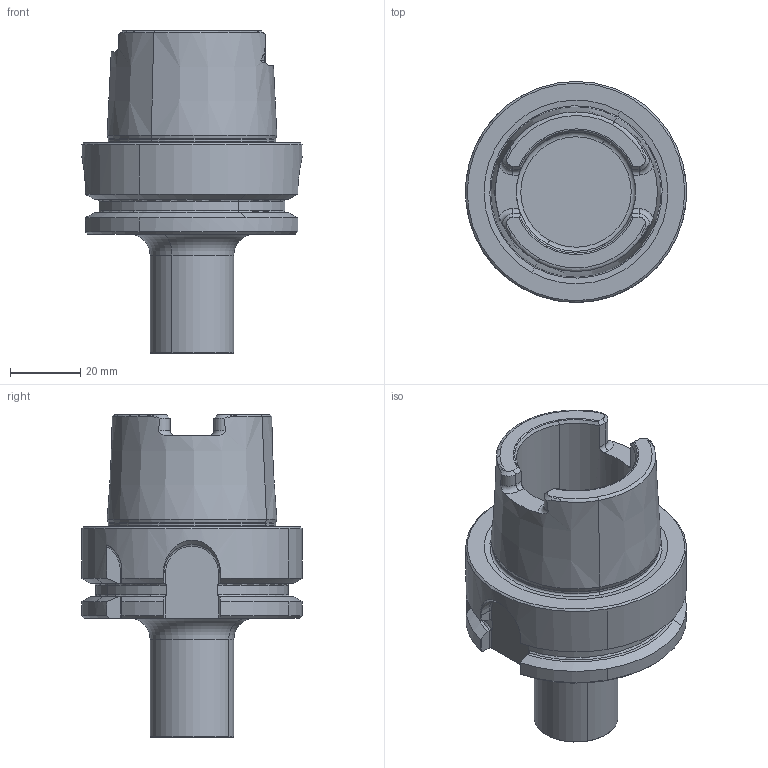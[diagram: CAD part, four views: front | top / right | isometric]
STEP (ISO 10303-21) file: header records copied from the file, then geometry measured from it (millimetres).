
FILE_DESCRIPTION(('CATIA V5 STEP','CAx-IF Rec.Pracs.--- Model Styling and Organization---1.2---2011-12-15'),'2;1');
FILE_NAME('I:\isr\design\admin8\users\wasweem_t\3106921 - L.stp','2014-05-11T12:55:05+00:00',('none'),('none'),'CATIA Version 5 Release 21 SP 5 (IN-10)','CATIA V5 STEP AP214','none');
FILE_SCHEMA(('AUTOMOTIVE_DESIGN { 1 0 10303 214 1 1 1 1 }'));
Length unit declared in the file: millimetre
Products named in the file (1): 620173158_0 Holder-Tool MM S-A-H060-HSK A63-T15
Bounding box: 63 x 63 x 92 mm (x, y, z)
Volume: 102734.9 mm3; surface area: 24104.2 mm2
Topology: 1 solids, 1 shells, 153 faces, 395 edges, 247 vertices
Faces by surface type: plane 45, cylinder 42, cone 35, torus 31
Entity records: 4642 total; most frequent: CARTESIAN_POINT 1340, ORIENTED_EDGE 790, DIRECTION 491, EDGE_CURVE 395, AXIS2_PLACEMENT_3D 266, VERTEX_POINT 247, CIRCLE 174, EDGE_LOOP 156
